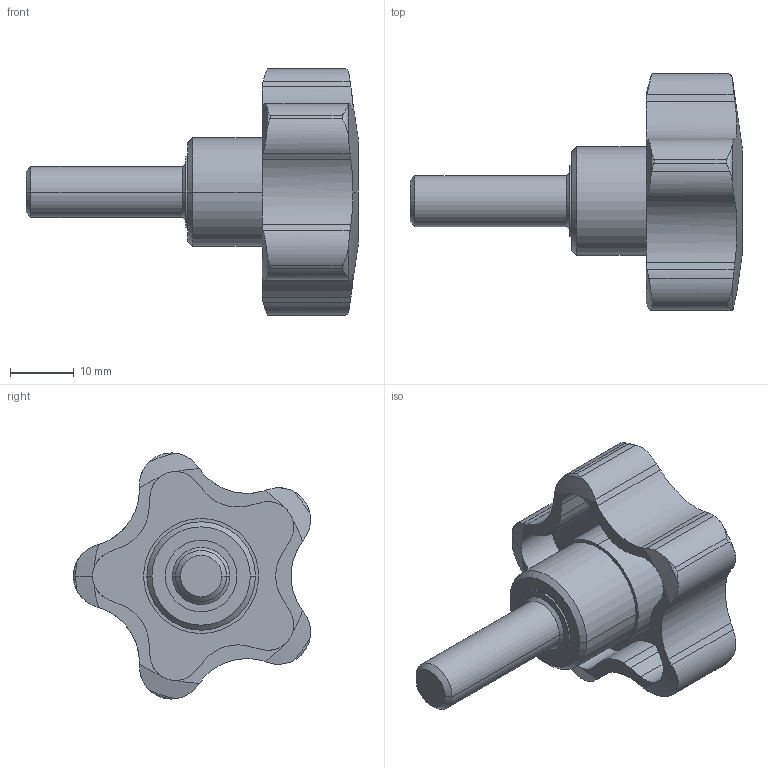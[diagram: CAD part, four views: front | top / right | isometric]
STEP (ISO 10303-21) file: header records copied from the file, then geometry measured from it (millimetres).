
FILE_DESCRIPTION (( 'STEP AP214' ), '1' );
FILE_NAME ('2.9049 Kiertonuppi M8 L25 ulkokierteellä.STEP', '2026-03-03T09:28:47', ( '' ), ( '' ), 'SwSTEP 2.0', 'SolidWorks 2025', '' );
FILE_SCHEMA (( 'AUTOMOTIVE_DESIGN' ));
Length unit declared in the file: millimetre
Products named in the file (1): 2.9049 Kiertonuppi M8 L25 ulkokierteellä
Bounding box: 52 x 37.14 x 38.55 mm (x, y, z)
Volume: 14494.5 mm3; surface area: 6451.6 mm2
Topology: 2 solids, 2 shells, 112 faces, 297 edges, 196 vertices
Faces by surface type: cylinder 50, plane 36, cone 16, torus 10
Entity records: 5307 total; most frequent: CARTESIAN_POINT 1304, ORIENTED_EDGE 594, DIRECTION 553, EDGE_CURVE 297, AXIS2_PLACEMENT_3D 221, VERTEX_POINT 196, EDGE_LOOP 119, UNCERTAINTY_MEASURE_WITH_UNIT 115
